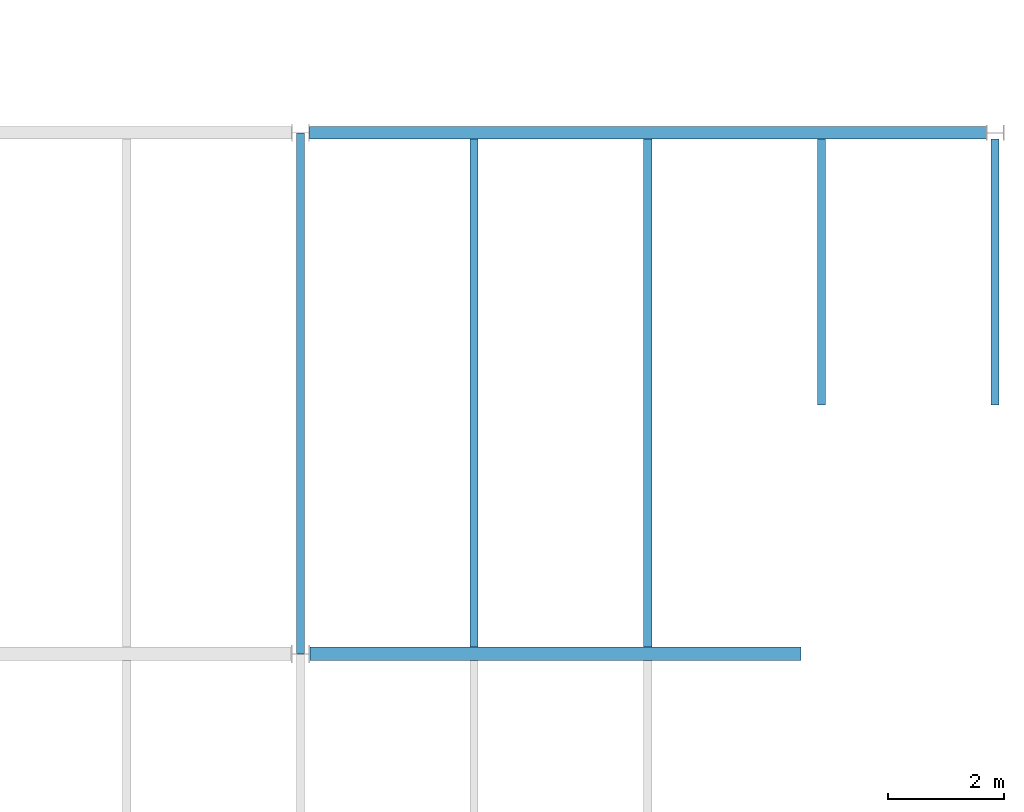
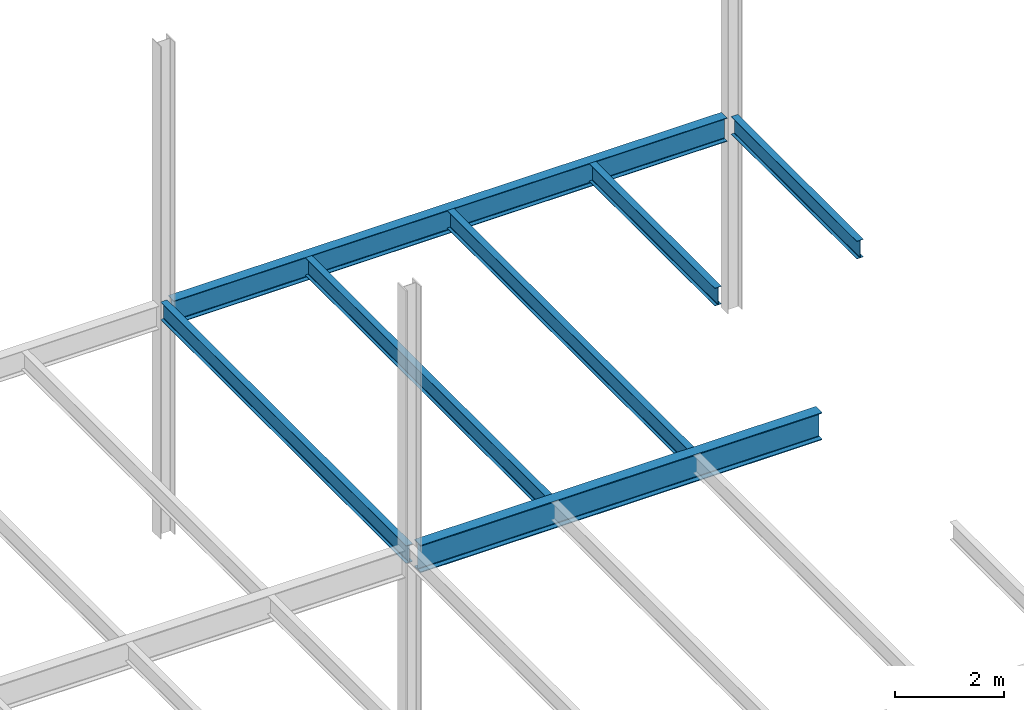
# One storey, part 19 of 19: 7 beams.
"""IFC2X3 building model written with IfcOpenShell, lengths in millimetres."""

from ifc_helpers import new_model, si_unit, origin, place, context, project, spatial, faceted_brep, material, element, save


model = new_model("IFC2X3")

# Units and contexts
context_of_model = context(None, 3, precision=1e-05, world=origin())
ifc_project = project(units=[si_unit("LENGTHUNIT", "METRE", prefix="MILLI")], contexts=[context_of_model])

# Building, storey
building = spatial("IfcBuilding", under=ifc_project, Name="Building", CompositionType="ELEMENT")
storey = spatial("IfcBuildingStorey", under=building, Name="FL2-FRM", CompositionType="ELEMENT")

# Beams
ifc_material_1 = material(Name="A992")
beam_1_placement = place(None, origin())
element("IfcBeam", 1, at=beam_1_placement, inside=storey, material=ifc_material_1, Name="Column494", context=context_of_model, shape_type="Brep", body=[
    faceted_brep([(72157.0, 26895.5, 3845.0), (72157.0, 27104.5, 3845.0), (83847.0, 27104.5, 3845.0), (83847.0, 26895.5, 3845.0), (72157.0, 27104.5, 3858.3), (83847.0, 27104.5, 3858.3), (72157.0, 27017.4, 3858.3), (83847.0, 27017.4, 3858.3), (72157.0, 27014.2, 3858.73), (83847.0, 27014.2, 3858.73), (72157.0, 27011.1, 3860.0), (83847.0, 27011.1, 3860.0), (72157.0, 27008.5, 3862.02), (83847.0, 27008.5, 3862.02), (72157.0, 27006.5, 3864.65), (83847.0, 27006.5, 3864.65), (72157.0, 27005.2, 3867.71), (83847.0, 27005.2, 3867.71), (72157.0, 27004.8, 3871.0), (83847.0, 27004.7, 3871.0), (72157.0, 27004.8, 4347.0), (83847.0, 27004.7, 4347.0), (72157.0, 27005.2, 4350.29), (83847.0, 27005.2, 4350.29), (72157.0, 27006.5, 4353.35), (83847.0, 27006.5, 4353.35), (72157.0, 27008.5, 4355.98), (83847.0, 27008.5, 4355.98), (72157.0, 27011.1, 4358.0), (83847.0, 27011.1, 4358.0), (72157.0, 27014.2, 4359.27), (83847.0, 27014.2, 4359.27), (72157.0, 27017.4, 4359.7), (83847.0, 27017.4, 4359.7), (72157.0, 27104.5, 4359.7), (83847.0, 27104.5, 4359.7), (72157.0, 27104.5, 4373.0), (83847.0, 27104.5, 4373.0), (72157.0, 26895.5, 4373.0), (83847.0, 26895.5, 4373.0), (72157.0, 26895.5, 4359.7), (83847.0, 26895.5, 4359.7), (72157.0, 26982.6, 4359.7), (83847.0, 26982.6, 4359.7), (72157.0, 26985.8, 4359.27), (83847.0, 26985.8, 4359.27), (72157.0, 26988.9, 4358.0), (83847.0, 26988.9, 4358.0), (72157.0, 26991.5, 4355.98), (83847.0, 26991.5, 4355.98), (72157.0, 26993.5, 4353.35), (83847.0, 26993.5, 4353.35), (72157.0, 26994.8, 4350.29), (83847.0, 26994.8, 4350.29), (72157.0, 26995.3, 4347.0), (83847.0, 26995.2, 4347.0), (72157.0, 26995.3, 3871.0), (83847.0, 26995.2, 3871.0), (72157.0, 26994.8, 3867.71), (83847.0, 26994.8, 3867.71), (72157.0, 26993.5, 3864.65), (83847.0, 26993.5, 3864.65), (72157.0, 26991.5, 3862.02), (83847.0, 26991.5, 3862.02), (72157.0, 26988.9, 3860.0), (83847.0, 26988.9, 3860.0), (72157.0, 26985.8, 3858.73), (83847.0, 26985.8, 3858.73), (72157.0, 26982.6, 3858.3), (83847.0, 26982.6, 3858.3), (72157.0, 26895.5, 3858.3), (83847.0, 26895.5, 3858.3)], [[[0, 1, 2, 3]], [[1, 4, 5, 2]], [[4, 6, 7, 5]], [[6, 8, 9, 7]], [[8, 10, 11, 9]], [[10, 12, 13, 11]], [[12, 14, 15, 13]], [[14, 16, 17, 15]], [[16, 18, 19, 17]], [[18, 20, 21, 19]], [[20, 22, 23, 21]], [[22, 24, 25, 23]], [[24, 26, 27, 25]], [[26, 28, 29, 27]], [[28, 30, 31, 29]], [[30, 32, 33, 31]], [[32, 34, 35, 33]], [[34, 36, 37, 35]], [[36, 38, 39, 37]], [[38, 40, 41, 39]], [[40, 42, 43, 41]], [[42, 44, 45, 43]], [[44, 46, 47, 45]], [[46, 48, 49, 47]], [[48, 50, 51, 49]], [[50, 52, 53, 51]], [[52, 54, 55, 53]], [[54, 56, 57, 55]], [[56, 58, 59, 57]], [[58, 60, 61, 59]], [[60, 62, 63, 61]], [[62, 64, 65, 63]], [[64, 66, 67, 65]], [[66, 68, 69, 67]], [[68, 70, 71, 69]], [[70, 0, 3, 71]], [[0, 70, 68, 66, 64, 62, 60, 58, 56, 54, 52, 50, 48, 46, 44, 42, 40, 38, 36, 34, 32, 30, 28, 26, 24, 22, 20, 18, 16, 14, 12, 10, 8, 6, 4, 1]], [[3, 2, 5, 7, 9, 11, 13, 15, 17, 19, 21, 23, 25, 27, 29, 31, 33, 35, 37, 39, 41, 43, 45, 47, 49, 51, 53, 55, 57, 59, 61, 63, 65, 67, 69, 71]]]),
])
ifc_material_2 = material(Name="A992")
beam_2_placement = place(None, origin())
element("IfcBeam", 2, at=beam_2_placement, inside=storey, material=ifc_material_2, Name="Column495", context=context_of_model, shape_type="Brep", body=[
    faceted_brep([(72166.5, 17885.5, 3761.0), (72166.5, 18114.5, 3761.0), (80650.0, 18114.5, 3761.0), (80650.0, 17885.5, 3761.0), (72166.5, 18114.5, 3780.6), (80650.0, 18114.5, 3780.6), (72166.5, 18018.6, 3780.6), (80650.0, 18018.6, 3780.6), (72166.5, 18015.4, 3781.03), (80650.0, 18015.4, 3781.03), (72166.5, 18012.3, 3782.3), (80650.0, 18012.3, 3782.3), (72166.5, 18009.7, 3784.32), (80650.0, 18009.7, 3784.32), (72166.5, 18007.7, 3786.95), (80650.0, 18007.7, 3786.95), (72166.5, 18006.4, 3790.01), (80650.0, 18006.4, 3790.01), (72166.5, 18005.9, 3793.3), (80650.0, 18005.9, 3793.3), (72166.5, 18005.9, 4340.7), (80650.0, 18005.9, 4340.7), (72166.5, 18006.4, 4343.99), (80650.0, 18006.4, 4343.99), (72166.5, 18007.7, 4347.05), (80650.0, 18007.7, 4347.05), (72166.5, 18009.7, 4349.68), (80650.0, 18009.7, 4349.68), (72166.5, 18012.3, 4351.7), (80650.0, 18012.3, 4351.7), (72166.5, 18015.4, 4352.97), (80650.0, 18015.4, 4352.97), (72166.5, 18018.6, 4353.4), (80650.0, 18018.6, 4353.4), (72166.5, 18114.5, 4353.4), (80650.0, 18114.5, 4353.4), (72166.5, 18114.5, 4373.0), (80650.0, 18114.5, 4373.0), (72166.5, 17885.5, 4373.0), (80650.0, 17885.5, 4373.0), (72166.5, 17885.5, 4353.4), (80650.0, 17885.5, 4353.4), (72166.5, 17981.4, 4353.4), (80650.0, 17981.4, 4353.4), (72166.5, 17984.6, 4352.97), (80650.0, 17984.6, 4352.97), (72166.5, 17987.7, 4351.7), (80650.0, 17987.7, 4351.7), (72166.5, 17990.3, 4349.68), (80650.0, 17990.3, 4349.68), (72166.5, 17992.3, 4347.05), (80650.0, 17992.3, 4347.05), (72166.5, 17993.6, 4343.99), (80650.0, 17993.6, 4343.99), (72166.5, 17994.1, 4340.7), (80650.0, 17994.1, 4340.7), (72166.5, 17994.1, 3793.3), (80650.0, 17994.1, 3793.3), (72166.5, 17993.6, 3790.01), (80650.0, 17993.6, 3790.01), (72166.5, 17992.3, 3786.95), (80650.0, 17992.3, 3786.95), (72166.5, 17990.3, 3784.32), (80650.0, 17990.3, 3784.32), (72166.5, 17987.7, 3782.3), (80650.0, 17987.7, 3782.3), (72166.5, 17984.6, 3781.03), (80650.0, 17984.6, 3781.03), (72166.5, 17981.4, 3780.6), (80650.0, 17981.4, 3780.6), (72166.5, 17885.5, 3780.6), (80650.0, 17885.5, 3780.6)], [[[0, 1, 2, 3]], [[1, 4, 5, 2]], [[4, 6, 7, 5]], [[6, 8, 9, 7]], [[8, 10, 11, 9]], [[10, 12, 13, 11]], [[12, 14, 15, 13]], [[14, 16, 17, 15]], [[16, 18, 19, 17]], [[18, 20, 21, 19]], [[20, 22, 23, 21]], [[22, 24, 25, 23]], [[24, 26, 27, 25]], [[26, 28, 29, 27]], [[28, 30, 31, 29]], [[30, 32, 33, 31]], [[32, 34, 35, 33]], [[34, 36, 37, 35]], [[36, 38, 39, 37]], [[38, 40, 41, 39]], [[40, 42, 43, 41]], [[42, 44, 45, 43]], [[44, 46, 47, 45]], [[46, 48, 49, 47]], [[48, 50, 51, 49]], [[50, 52, 53, 51]], [[52, 54, 55, 53]], [[54, 56, 57, 55]], [[56, 58, 59, 57]], [[58, 60, 61, 59]], [[60, 62, 63, 61]], [[62, 64, 65, 63]], [[64, 66, 67, 65]], [[66, 68, 69, 67]], [[68, 70, 71, 69]], [[70, 0, 3, 71]], [[0, 70, 68, 66, 64, 62, 60, 58, 56, 54, 52, 50, 48, 46, 44, 42, 40, 38, 36, 34, 32, 30, 28, 26, 24, 22, 20, 18, 16, 14, 12, 10, 8, 6, 4, 1]], [[3, 2, 5, 7, 9, 11, 13, 15, 17, 19, 21, 23, 25, 27, 29, 31, 33, 35, 37, 39, 41, 43, 45, 47, 49, 51, 53, 55, 57, 59, 61, 63, 65, 67, 69, 71]]]),
])
ifc_material_3 = material(Name="A992")
beam_3_placement = place(None, origin())
element("IfcBeam", 3, at=beam_3_placement, inside=storey, material=ifc_material_3, Name="B1100", context=context_of_model, shape_type="Brep", body=[
    faceted_brep([(71930.0, 26994.1, 3974.0), (72070.0, 26994.1, 3974.0), (72070.0, 18009.0, 3974.0), (71930.0, 18009.0, 3974.0), (72070.0, 26994.1, 3982.8), (72070.0, 18009.0, 3982.8), (72013.4, 26994.1, 3982.8), (72013.4, 18009.0, 3982.8), (72010.8, 26994.1, 3983.15), (72010.8, 18009.0, 3983.15), (72008.3, 26994.1, 3984.17), (72008.3, 18009.0, 3984.17), (72006.2, 26994.1, 3985.79), (72006.2, 18009.0, 3985.79), (72004.6, 26994.1, 3987.9), (72004.6, 18009.0, 3987.9), (72003.5, 26994.1, 3990.36), (72003.5, 18009.0, 3990.36), (72003.2, 26994.1, 3993.0), (72003.2, 18009.0, 3993.0), (72003.2, 26994.1, 4354.0), (72003.2, 18009.0, 4354.0), (72003.5, 26994.1, 4356.64), (72003.5, 18009.0, 4356.64), (72004.6, 26994.1, 4359.1), (72004.6, 18009.0, 4359.1), (72006.2, 26994.1, 4361.21), (72006.2, 18009.0, 4361.21), (72008.3, 26994.1, 4362.83), (72008.3, 18009.0, 4362.83), (72010.8, 26994.1, 4363.85), (72010.8, 18009.0, 4363.85), (72013.4, 26994.1, 4364.2), (72013.4, 18009.0, 4364.2), (72070.0, 26994.1, 4364.2), (72070.0, 18009.0, 4364.2), (72070.0, 26994.1, 4373.0), (72070.0, 18009.0, 4373.0), (71930.0, 26994.1, 4373.0), (71930.0, 18009.0, 4373.0), (71930.0, 26994.1, 4364.2), (71930.0, 18009.0, 4364.2), (71986.6, 26994.1, 4364.2), (71986.6, 18009.0, 4364.2), (71989.2, 26994.1, 4363.85), (71989.2, 18009.0, 4363.85), (71991.7, 26994.1, 4362.83), (71991.7, 18009.0, 4362.83), (71993.8, 26994.1, 4361.21), (71993.8, 18009.0, 4361.21), (71995.4, 26994.1, 4359.1), (71995.4, 18009.0, 4359.1), (71996.5, 26994.1, 4356.64), (71996.5, 18009.0, 4356.64), (71996.8, 26994.1, 4354.0), (71996.8, 18009.0, 4354.0), (71996.8, 26994.1, 3993.0), (71996.8, 18009.0, 3993.0), (71996.5, 26994.1, 3990.36), (71996.5, 18009.0, 3990.36), (71995.4, 26994.1, 3987.9), (71995.4, 18009.0, 3987.9), (71993.8, 26994.1, 3985.79), (71993.8, 18009.0, 3985.79), (71991.7, 26994.1, 3984.17), (71991.7, 18009.0, 3984.17), (71989.2, 26994.1, 3983.15), (71989.2, 18009.0, 3983.15), (71986.6, 26994.1, 3982.8), (71986.6, 18009.0, 3982.8), (71930.0, 26994.1, 3982.8), (71930.0, 18009.0, 3982.8)], [[[0, 1, 2, 3]], [[1, 4, 5, 2]], [[4, 6, 7, 5]], [[6, 8, 9, 7]], [[8, 10, 11, 9]], [[10, 12, 13, 11]], [[12, 14, 15, 13]], [[14, 16, 17, 15]], [[16, 18, 19, 17]], [[18, 20, 21, 19]], [[20, 22, 23, 21]], [[22, 24, 25, 23]], [[24, 26, 27, 25]], [[26, 28, 29, 27]], [[28, 30, 31, 29]], [[30, 32, 33, 31]], [[32, 34, 35, 33]], [[34, 36, 37, 35]], [[36, 38, 39, 37]], [[38, 40, 41, 39]], [[40, 42, 43, 41]], [[42, 44, 45, 43]], [[44, 46, 47, 45]], [[46, 48, 49, 47]], [[48, 50, 51, 49]], [[50, 52, 53, 51]], [[52, 54, 55, 53]], [[54, 56, 57, 55]], [[56, 58, 59, 57]], [[58, 60, 61, 59]], [[60, 62, 63, 61]], [[62, 64, 65, 63]], [[64, 66, 67, 65]], [[66, 68, 69, 67]], [[68, 70, 71, 69]], [[70, 0, 3, 71]], [[0, 70, 68, 66, 64, 62, 60, 58, 56, 54, 52, 50, 48, 46, 44, 42, 40, 38, 36, 34, 32, 30, 28, 26, 24, 22, 20, 18, 16, 14, 12, 10, 8, 6, 4, 1]], [[3, 2, 5, 7, 9, 11, 13, 15, 17, 19, 21, 23, 25, 27, 29, 31, 33, 35, 37, 39, 41, 43, 45, 47, 49, 51, 53, 55, 57, 59, 61, 63, 65, 67, 69, 71]]]),
])
ifc_material_4 = material(Name="A992")
beam_4_placement = place(None, origin())
element("IfcBeam", 4, at=beam_4_placement, inside=storey, material=ifc_material_4, Name="B1101", context=context_of_model, shape_type="Brep", body=[
    faceted_brep([(74930.0, 26895.5, 3974.0), (75070.0, 26895.5, 3974.0), (75070.0, 18114.5, 3974.0), (74930.0, 18114.5, 3974.0), (75070.0, 26895.5, 3982.8), (75070.0, 18114.5, 3982.8), (75013.4, 26895.5, 3982.8), (75013.4, 18114.5, 3982.8), (75010.8, 26895.5, 3983.15), (75010.8, 18114.5, 3983.15), (75008.3, 26895.5, 3984.17), (75008.3, 18114.5, 3984.17), (75006.2, 26895.5, 3985.79), (75006.2, 18114.5, 3985.79), (75004.6, 26895.5, 3987.9), (75004.6, 18114.5, 3987.9), (75003.5, 26895.5, 3990.36), (75003.5, 18114.5, 3990.36), (75003.2, 26895.5, 3993.0), (75003.2, 18114.5, 3993.0), (75003.2, 26895.5, 4354.0), (75003.2, 18114.5, 4354.0), (75003.5, 26895.5, 4356.64), (75003.5, 18114.5, 4356.64), (75004.6, 26895.5, 4359.1), (75004.6, 18114.5, 4359.1), (75006.2, 26895.5, 4361.21), (75006.2, 18114.5, 4361.21), (75008.3, 26895.5, 4362.83), (75008.3, 18114.5, 4362.83), (75010.8, 26895.5, 4363.85), (75010.8, 18114.5, 4363.85), (75013.4, 26895.5, 4364.2), (75013.4, 18114.5, 4364.2), (75070.0, 26895.5, 4364.2), (75070.0, 18114.5, 4364.2), (75070.0, 26895.5, 4373.0), (75070.0, 18114.5, 4373.0), (74930.0, 26895.5, 4373.0), (74930.0, 18114.5, 4373.0), (74930.0, 26895.5, 4364.2), (74930.0, 18114.5, 4364.2), (74986.6, 26895.5, 4364.2), (74986.6, 18114.5, 4364.2), (74989.2, 26895.5, 4363.85), (74989.2, 18114.5, 4363.85), (74991.7, 26895.5, 4362.83), (74991.7, 18114.5, 4362.83), (74993.8, 26895.5, 4361.21), (74993.8, 18114.5, 4361.21), (74995.4, 26895.5, 4359.1), (74995.4, 18114.5, 4359.1), (74996.5, 26895.5, 4356.64), (74996.5, 18114.5, 4356.64), (74996.8, 26895.5, 4354.0), (74996.8, 18114.5, 4354.0), (74996.8, 26895.5, 3993.0), (74996.8, 18114.5, 3993.0), (74996.5, 26895.5, 3990.36), (74996.5, 18114.5, 3990.36), (74995.4, 26895.5, 3987.9), (74995.4, 18114.5, 3987.9), (74993.8, 26895.5, 3985.79), (74993.8, 18114.5, 3985.79), (74991.7, 26895.5, 3984.17), (74991.7, 18114.5, 3984.17), (74989.2, 26895.5, 3983.15), (74989.2, 18114.5, 3983.15), (74986.6, 26895.5, 3982.8), (74986.6, 18114.5, 3982.8), (74930.0, 26895.5, 3982.8), (74930.0, 18114.5, 3982.8)], [[[0, 1, 2, 3]], [[1, 4, 5, 2]], [[4, 6, 7, 5]], [[6, 8, 9, 7]], [[8, 10, 11, 9]], [[10, 12, 13, 11]], [[12, 14, 15, 13]], [[14, 16, 17, 15]], [[16, 18, 19, 17]], [[18, 20, 21, 19]], [[20, 22, 23, 21]], [[22, 24, 25, 23]], [[24, 26, 27, 25]], [[26, 28, 29, 27]], [[28, 30, 31, 29]], [[30, 32, 33, 31]], [[32, 34, 35, 33]], [[34, 36, 37, 35]], [[36, 38, 39, 37]], [[38, 40, 41, 39]], [[40, 42, 43, 41]], [[42, 44, 45, 43]], [[44, 46, 47, 45]], [[46, 48, 49, 47]], [[48, 50, 51, 49]], [[50, 52, 53, 51]], [[52, 54, 55, 53]], [[54, 56, 57, 55]], [[56, 58, 59, 57]], [[58, 60, 61, 59]], [[60, 62, 63, 61]], [[62, 64, 65, 63]], [[64, 66, 67, 65]], [[66, 68, 69, 67]], [[68, 70, 71, 69]], [[70, 0, 3, 71]], [[0, 70, 68, 66, 64, 62, 60, 58, 56, 54, 52, 50, 48, 46, 44, 42, 40, 38, 36, 34, 32, 30, 28, 26, 24, 22, 20, 18, 16, 14, 12, 10, 8, 6, 4, 1]], [[3, 2, 5, 7, 9, 11, 13, 15, 17, 19, 21, 23, 25, 27, 29, 31, 33, 35, 37, 39, 41, 43, 45, 47, 49, 51, 53, 55, 57, 59, 61, 63, 65, 67, 69, 71]]]),
])
ifc_material_5 = material(Name="A992")
beam_5_placement = place(None, origin())
element("IfcBeam", 5, at=beam_5_placement, inside=storey, material=ifc_material_5, Name="B1102", context=context_of_model, shape_type="Brep", body=[
    faceted_brep([(77930.0, 26895.5, 3974.0), (78070.0, 26895.5, 3974.0), (78070.0, 18114.5, 3974.0), (77930.0, 18114.5, 3974.0), (78070.0, 26895.5, 3982.8), (78070.0, 18114.5, 3982.8), (78013.4, 26895.5, 3982.8), (78013.4, 18114.5, 3982.8), (78010.8, 26895.5, 3983.15), (78010.8, 18114.5, 3983.15), (78008.3, 26895.5, 3984.17), (78008.3, 18114.5, 3984.17), (78006.2, 26895.5, 3985.79), (78006.2, 18114.5, 3985.79), (78004.6, 26895.5, 3987.9), (78004.6, 18114.5, 3987.9), (78003.5, 26895.5, 3990.36), (78003.5, 18114.5, 3990.36), (78003.2, 26895.5, 3993.0), (78003.2, 18114.5, 3993.0), (78003.2, 26895.5, 4354.0), (78003.2, 18114.5, 4354.0), (78003.5, 26895.5, 4356.64), (78003.5, 18114.5, 4356.64), (78004.6, 26895.5, 4359.1), (78004.6, 18114.5, 4359.1), (78006.2, 26895.5, 4361.21), (78006.2, 18114.5, 4361.21), (78008.3, 26895.5, 4362.83), (78008.3, 18114.5, 4362.83), (78010.8, 26895.5, 4363.85), (78010.8, 18114.5, 4363.85), (78013.4, 26895.5, 4364.2), (78013.4, 18114.5, 4364.2), (78070.0, 26895.5, 4364.2), (78070.0, 18114.5, 4364.2), (78070.0, 26895.5, 4373.0), (78070.0, 18114.5, 4373.0), (77930.0, 26895.5, 4373.0), (77930.0, 18114.5, 4373.0), (77930.0, 26895.5, 4364.2), (77930.0, 18114.5, 4364.2), (77986.6, 26895.5, 4364.2), (77986.6, 18114.5, 4364.2), (77989.2, 26895.5, 4363.85), (77989.2, 18114.5, 4363.85), (77991.7, 26895.5, 4362.83), (77991.7, 18114.5, 4362.83), (77993.8, 26895.5, 4361.21), (77993.8, 18114.5, 4361.21), (77995.4, 26895.5, 4359.1), (77995.4, 18114.5, 4359.1), (77996.5, 26895.5, 4356.64), (77996.5, 18114.5, 4356.64), (77996.8, 26895.5, 4354.0), (77996.8, 18114.5, 4354.0), (77996.8, 26895.5, 3993.0), (77996.8, 18114.5, 3993.0), (77996.5, 26895.5, 3990.36), (77996.5, 18114.5, 3990.36), (77995.4, 26895.5, 3987.9), (77995.4, 18114.5, 3987.9), (77993.8, 26895.5, 3985.79), (77993.8, 18114.5, 3985.79), (77991.7, 26895.5, 3984.17), (77991.7, 18114.5, 3984.17), (77989.2, 26895.5, 3983.15), (77989.2, 18114.5, 3983.15), (77986.6, 26895.5, 3982.8), (77986.6, 18114.5, 3982.8), (77930.0, 26895.5, 3982.8), (77930.0, 18114.5, 3982.8)], [[[0, 1, 2, 3]], [[1, 4, 5, 2]], [[4, 6, 7, 5]], [[6, 8, 9, 7]], [[8, 10, 11, 9]], [[10, 12, 13, 11]], [[12, 14, 15, 13]], [[14, 16, 17, 15]], [[16, 18, 19, 17]], [[18, 20, 21, 19]], [[20, 22, 23, 21]], [[22, 24, 25, 23]], [[24, 26, 27, 25]], [[26, 28, 29, 27]], [[28, 30, 31, 29]], [[30, 32, 33, 31]], [[32, 34, 35, 33]], [[34, 36, 37, 35]], [[36, 38, 39, 37]], [[38, 40, 41, 39]], [[40, 42, 43, 41]], [[42, 44, 45, 43]], [[44, 46, 47, 45]], [[46, 48, 49, 47]], [[48, 50, 51, 49]], [[50, 52, 53, 51]], [[52, 54, 55, 53]], [[54, 56, 57, 55]], [[56, 58, 59, 57]], [[58, 60, 61, 59]], [[60, 62, 63, 61]], [[62, 64, 65, 63]], [[64, 66, 67, 65]], [[66, 68, 69, 67]], [[68, 70, 71, 69]], [[70, 0, 3, 71]], [[0, 70, 68, 66, 64, 62, 60, 58, 56, 54, 52, 50, 48, 46, 44, 42, 40, 38, 36, 34, 32, 30, 28, 26, 24, 22, 20, 18, 16, 14, 12, 10, 8, 6, 4, 1]], [[3, 2, 5, 7, 9, 11, 13, 15, 17, 19, 21, 23, 25, 27, 29, 31, 33, 35, 37, 39, 41, 43, 45, 47, 49, 51, 53, 55, 57, 59, 61, 63, 65, 67, 69, 71]]]),
])
ifc_material_6 = material(Name="A992")
beam_6_placement = place(None, origin())
element("IfcBeam", 6, at=beam_6_placement, inside=storey, material=ifc_material_6, Name="B1107", context=context_of_model, shape_type="Brep", body=[
    faceted_brep([(83930.0, 26895.5, 3974.0), (84070.0, 26895.5, 3974.0), (84070.0, 22300.0, 3974.0), (83930.0, 22300.0, 3974.0), (84070.0, 26895.5, 3982.8), (84070.0, 22300.0, 3982.8), (84013.4, 26895.5, 3982.8), (84013.4, 22300.0, 3982.8), (84010.8, 26895.5, 3983.15), (84010.8, 22300.0, 3983.15), (84008.3, 26895.5, 3984.17), (84008.3, 22300.0, 3984.17), (84006.2, 26895.5, 3985.79), (84006.2, 22300.0, 3985.79), (84004.6, 26895.5, 3987.9), (84004.6, 22300.0, 3987.9), (84003.5, 26895.5, 3990.36), (84003.5, 22300.0, 3990.36), (84003.2, 26895.5, 3993.0), (84003.2, 22300.0, 3993.0), (84003.2, 26895.5, 4354.0), (84003.2, 22300.0, 4354.0), (84003.5, 26895.5, 4356.64), (84003.5, 22300.0, 4356.64), (84004.6, 26895.5, 4359.1), (84004.6, 22300.0, 4359.1), (84006.2, 26895.5, 4361.21), (84006.2, 22300.0, 4361.21), (84008.3, 26895.5, 4362.83), (84008.3, 22300.0, 4362.83), (84010.8, 26895.5, 4363.85), (84010.8, 22300.0, 4363.85), (84013.4, 26895.5, 4364.2), (84013.4, 22300.0, 4364.2), (84070.0, 26895.5, 4364.2), (84070.0, 22300.0, 4364.2), (84070.0, 26895.5, 4373.0), (84070.0, 22300.0, 4373.0), (83930.0, 26895.5, 4373.0), (83930.0, 22300.0, 4373.0), (83930.0, 26895.5, 4364.2), (83930.0, 22300.0, 4364.2), (83986.6, 26895.5, 4364.2), (83986.6, 22300.0, 4364.2), (83989.2, 26895.5, 4363.85), (83989.2, 22300.0, 4363.85), (83991.7, 26895.5, 4362.83), (83991.7, 22300.0, 4362.83), (83993.8, 26895.5, 4361.21), (83993.8, 22300.0, 4361.21), (83995.4, 26895.5, 4359.1), (83995.4, 22300.0, 4359.1), (83996.5, 26895.5, 4356.64), (83996.5, 22300.0, 4356.64), (83996.8, 26895.5, 4354.0), (83996.8, 22300.0, 4354.0), (83996.8, 26895.5, 3993.0), (83996.8, 22300.0, 3993.0), (83996.5, 26895.5, 3990.36), (83996.5, 22300.0, 3990.36), (83995.4, 26895.5, 3987.9), (83995.4, 22300.0, 3987.9), (83993.8, 26895.5, 3985.79), (83993.8, 22300.0, 3985.79), (83991.7, 26895.5, 3984.17), (83991.7, 22300.0, 3984.17), (83989.2, 26895.5, 3983.15), (83989.2, 22300.0, 3983.15), (83986.6, 26895.5, 3982.8), (83986.6, 22300.0, 3982.8), (83930.0, 26895.5, 3982.8), (83930.0, 22300.0, 3982.8)], [[[0, 1, 2, 3]], [[1, 4, 5, 2]], [[4, 6, 7, 5]], [[6, 8, 9, 7]], [[8, 10, 11, 9]], [[10, 12, 13, 11]], [[12, 14, 15, 13]], [[14, 16, 17, 15]], [[16, 18, 19, 17]], [[18, 20, 21, 19]], [[20, 22, 23, 21]], [[22, 24, 25, 23]], [[24, 26, 27, 25]], [[26, 28, 29, 27]], [[28, 30, 31, 29]], [[30, 32, 33, 31]], [[32, 34, 35, 33]], [[34, 36, 37, 35]], [[36, 38, 39, 37]], [[38, 40, 41, 39]], [[40, 42, 43, 41]], [[42, 44, 45, 43]], [[44, 46, 47, 45]], [[46, 48, 49, 47]], [[48, 50, 51, 49]], [[50, 52, 53, 51]], [[52, 54, 55, 53]], [[54, 56, 57, 55]], [[56, 58, 59, 57]], [[58, 60, 61, 59]], [[60, 62, 63, 61]], [[62, 64, 65, 63]], [[64, 66, 67, 65]], [[66, 68, 69, 67]], [[68, 70, 71, 69]], [[70, 0, 3, 71]], [[0, 70, 68, 66, 64, 62, 60, 58, 56, 54, 52, 50, 48, 46, 44, 42, 40, 38, 36, 34, 32, 30, 28, 26, 24, 22, 20, 18, 16, 14, 12, 10, 8, 6, 4, 1]], [[3, 2, 5, 7, 9, 11, 13, 15, 17, 19, 21, 23, 25, 27, 29, 31, 33, 35, 37, 39, 41, 43, 45, 47, 49, 51, 53, 55, 57, 59, 61, 63, 65, 67, 69, 71]]]),
])
ifc_material_7 = material(Name="A992")
beam_7_placement = place(None, origin())
element("IfcBeam", 7, at=beam_7_placement, inside=storey, material=ifc_material_7, Name="B1108", context=context_of_model, shape_type="Brep", body=[
    faceted_brep([(80930.0, 26895.5, 3974.0), (81070.0, 26895.5, 3974.0), (81070.0, 22300.0, 3974.0), (80930.0, 22300.0, 3974.0), (81070.0, 26895.5, 3982.8), (81070.0, 22300.0, 3982.8), (81013.4, 26895.5, 3982.8), (81013.4, 22300.0, 3982.8), (81010.8, 26895.5, 3983.15), (81010.8, 22300.0, 3983.15), (81008.3, 26895.5, 3984.17), (81008.3, 22300.0, 3984.17), (81006.2, 26895.5, 3985.79), (81006.2, 22300.0, 3985.79), (81004.6, 26895.5, 3987.9), (81004.6, 22300.0, 3987.9), (81003.5, 26895.5, 3990.36), (81003.5, 22300.0, 3990.36), (81003.2, 26895.5, 3993.0), (81003.2, 22300.0, 3993.0), (81003.2, 26895.5, 4354.0), (81003.2, 22300.0, 4354.0), (81003.5, 26895.5, 4356.64), (81003.5, 22300.0, 4356.64), (81004.6, 26895.5, 4359.1), (81004.6, 22300.0, 4359.1), (81006.2, 26895.5, 4361.21), (81006.2, 22300.0, 4361.21), (81008.3, 26895.5, 4362.83), (81008.3, 22300.0, 4362.83), (81010.8, 26895.5, 4363.85), (81010.8, 22300.0, 4363.85), (81013.4, 26895.5, 4364.2), (81013.4, 22300.0, 4364.2), (81070.0, 26895.5, 4364.2), (81070.0, 22300.0, 4364.2), (81070.0, 26895.5, 4373.0), (81070.0, 22300.0, 4373.0), (80930.0, 26895.5, 4373.0), (80930.0, 22300.0, 4373.0), (80930.0, 26895.5, 4364.2), (80930.0, 22300.0, 4364.2), (80986.6, 26895.5, 4364.2), (80986.6, 22300.0, 4364.2), (80989.2, 26895.5, 4363.85), (80989.2, 22300.0, 4363.85), (80991.7, 26895.5, 4362.83), (80991.7, 22300.0, 4362.83), (80993.8, 26895.5, 4361.21), (80993.8, 22300.0, 4361.21), (80995.4, 26895.5, 4359.1), (80995.4, 22300.0, 4359.1), (80996.5, 26895.5, 4356.64), (80996.5, 22300.0, 4356.64), (80996.8, 26895.5, 4354.0), (80996.8, 22300.0, 4354.0), (80996.8, 26895.5, 3993.0), (80996.8, 22300.0, 3993.0), (80996.5, 26895.5, 3990.36), (80996.5, 22300.0, 3990.36), (80995.4, 26895.5, 3987.9), (80995.4, 22300.0, 3987.9), (80993.8, 26895.5, 3985.79), (80993.8, 22300.0, 3985.79), (80991.7, 26895.5, 3984.17), (80991.7, 22300.0, 3984.17), (80989.2, 26895.5, 3983.15), (80989.2, 22300.0, 3983.15), (80986.6, 26895.5, 3982.8), (80986.6, 22300.0, 3982.8), (80930.0, 26895.5, 3982.8), (80930.0, 22300.0, 3982.8)], [[[0, 1, 2, 3]], [[1, 4, 5, 2]], [[4, 6, 7, 5]], [[6, 8, 9, 7]], [[8, 10, 11, 9]], [[10, 12, 13, 11]], [[12, 14, 15, 13]], [[14, 16, 17, 15]], [[16, 18, 19, 17]], [[18, 20, 21, 19]], [[20, 22, 23, 21]], [[22, 24, 25, 23]], [[24, 26, 27, 25]], [[26, 28, 29, 27]], [[28, 30, 31, 29]], [[30, 32, 33, 31]], [[32, 34, 35, 33]], [[34, 36, 37, 35]], [[36, 38, 39, 37]], [[38, 40, 41, 39]], [[40, 42, 43, 41]], [[42, 44, 45, 43]], [[44, 46, 47, 45]], [[46, 48, 49, 47]], [[48, 50, 51, 49]], [[50, 52, 53, 51]], [[52, 54, 55, 53]], [[54, 56, 57, 55]], [[56, 58, 59, 57]], [[58, 60, 61, 59]], [[60, 62, 63, 61]], [[62, 64, 65, 63]], [[64, 66, 67, 65]], [[66, 68, 69, 67]], [[68, 70, 71, 69]], [[70, 0, 3, 71]], [[0, 70, 68, 66, 64, 62, 60, 58, 56, 54, 52, 50, 48, 46, 44, 42, 40, 38, 36, 34, 32, 30, 28, 26, 24, 22, 20, 18, 16, 14, 12, 10, 8, 6, 4, 1]], [[3, 2, 5, 7, 9, 11, 13, 15, 17, 19, 21, 23, 25, 27, 29, 31, 33, 35, 37, 39, 41, 43, 45, 47, 49, 51, 53, 55, 57, 59, 61, 63, 65, 67, 69, 71]]]),
])

save(model, "model.ifc")
